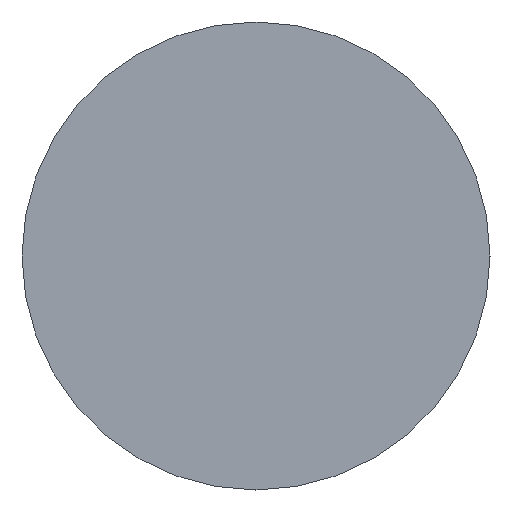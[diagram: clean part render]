
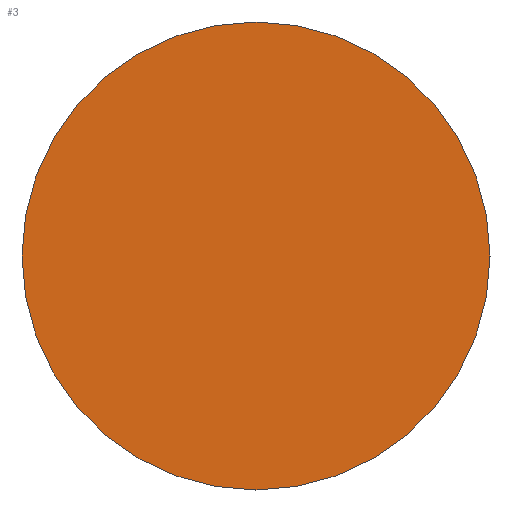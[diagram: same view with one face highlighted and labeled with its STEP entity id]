
A CAD part, left-side view. The second image highlights one B-rep face of the part: STEP entity #3.
In plain terms, the highlighted planar face has unit normal (-1, 0, 0).
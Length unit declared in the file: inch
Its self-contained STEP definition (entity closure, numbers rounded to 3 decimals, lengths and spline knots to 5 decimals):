
#3 = ADVANCED_FACE ( 'NONE', ( #219 ), #216, .F. ) ;
#9 = VERTEX_POINT ( 'NONE', #413 ) ;
#19 = AXIS2_PLACEMENT_3D ( 'NONE', #405, #488, #146 ) ;
#56 = EDGE_CURVE ( 'NONE', #9, #204, #449, .T. ) ;
#89 = CARTESIAN_POINT ( 'NONE',  ( -4., 0., 0.5 ) ) ;
#146 = DIRECTION ( 'NONE',  ( 0., 0., -1. ) ) ;
#151 = CARTESIAN_POINT ( 'NONE',  ( -4., 0., 0. ) ) ;
#169 = ORIENTED_EDGE ( 'NONE', *, *, #399, .T. ) ;
#174 = AXIS2_PLACEMENT_3D ( 'NONE', #151, #293, #222 ) ;
#180 = CIRCLE ( 'NONE', #463, 0.5 ) ;
#204 = VERTEX_POINT ( 'NONE', #89 ) ;
#216 = PLANE ( 'NONE',  #19 ) ;
#219 = FACE_OUTER_BOUND ( 'NONE', #388, .T. ) ;
#222 = DIRECTION ( 'NONE',  ( 0., 0., 1. ) ) ;
#254 = DIRECTION ( 'NONE',  ( 0., 0., 1. ) ) ;
#293 = DIRECTION ( 'NONE',  ( -1., 0., 0. ) ) ;
#367 = CARTESIAN_POINT ( 'NONE',  ( -4., 0., 0. ) ) ;
#388 = EDGE_LOOP ( 'NONE', ( #169, #468 ) ) ;
#399 = EDGE_CURVE ( 'NONE', #204, #9, #180, .T. ) ;
#405 = CARTESIAN_POINT ( 'NONE',  ( -4., 0.5, 0. ) ) ;
#413 = CARTESIAN_POINT ( 'NONE',  ( -4., 0., -0.5 ) ) ;
#449 = CIRCLE ( 'NONE', #174, 0.5 ) ;
#451 = DIRECTION ( 'NONE',  ( -1., 0., 0. ) ) ;
#463 = AXIS2_PLACEMENT_3D ( 'NONE', #367, #451, #254 ) ;
#468 = ORIENTED_EDGE ( 'NONE', *, *, #56, .T. ) ;
#488 = DIRECTION ( 'NONE',  ( 1., 0., 0. ) ) ;
